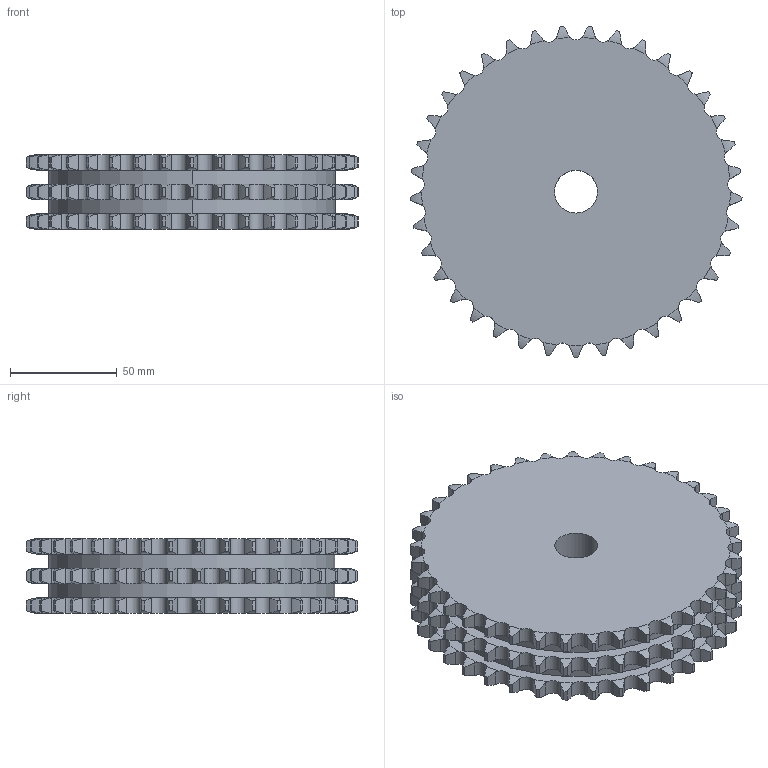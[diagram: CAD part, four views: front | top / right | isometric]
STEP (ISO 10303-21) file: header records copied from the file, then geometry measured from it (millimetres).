
FILE_DESCRIPTION((''),'2;1');
FILE_NAME('500-203-0037_PRT','2021-02-12T',('Brieden'),('Brieden'),'PRO/ENGINEER BY PARAMETRIC TECHNOLOGY CORPORATION, 2010160','PRO/ENGINEER BY PARAMETRIC TECHNOLOGY CORPORATION, 2010160','');
FILE_SCHEMA(('AUTOMOTIVE_DESIGN { 1 0 10303 214 1 1 1 1 }'));
Length unit declared in the file: millimetre
Products named in the file (1): 500-203-0037_PRT
Bounding box: 155.17 x 155.03 x 34.9 mm (x, y, z)
Volume: 541813.6 mm3; surface area: 67466.8 mm2
Topology: 1 solids, 1 shells, 678 faces, 2016 edges, 1344 vertices
Faces by surface type: cylinder 450, torus 222, plane 6
Entity records: 32988 total; most frequent: CARTESIAN_POINT 9765, ORIENTED_EDGE 4032, DIRECTION 3162, PRESENTATION_STYLE_ASSIGNMENT 2017, STYLED_ITEM 2017, CURVE_STYLE 2016, EDGE_CURVE 2016, AXIS2_PLACEMENT_3D 1356
